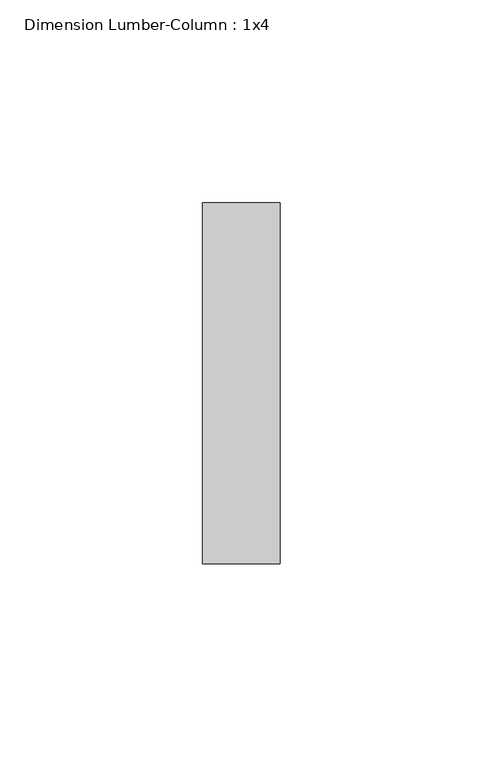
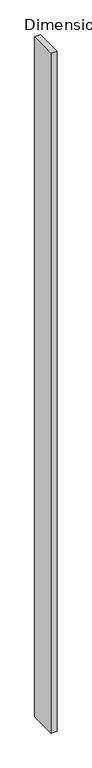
"""IFC4 building model written with IfcOpenShell, lengths in millimetres: column geometry, Dimension Lumber-Column : 1x4."""

from ifc_helpers import new_model, si_unit, frame, origin, place, context, project, spatial, polyline, outline, extrude, source, transform, mapped, element, save


def dimension_lumber_column_1x4_052bb746(model_context):
    return source(origin(), model_context, "Body", "SweptSolid", [
        extrude(outline(polyline([(9.525, -44.45), (-9.525, -44.45), (-9.525, 44.45), (9.525, 44.45), (9.525, -44.45)])), frame((0.0, 0.0, -101.6), z_axis=(0.0, 0.0, 1.0), x_axis=(1.0, 0.0, 0.0)), (0.0, 0.0, 1.0), 2266.95),
    ])


if __name__ == "__main__":
    model = new_model("IFC4")
    model_context = context("Model", 3, world=origin())
    ifc_project = project(units=[si_unit("LENGTHUNIT", "METRE", prefix="MILLI")], contexts=[model_context])
    site = spatial("IfcSite", under=ifc_project)
    building = spatial("IfcBuilding", under=site)
    placement = place(None, origin())
    dimension_lumber_column_1x4_shape = dimension_lumber_column_1x4_052bb746(model_context)
    element("IfcColumn", 1, ObjectType="Dimension Lumber-Column : 1x4", at=placement, inside=building, context=model_context, shape_type="MappedRepresentation", body=[
        mapped(dimension_lumber_column_1x4_shape, transform((0.0, 0.0, 0.0), x_axis=(1.0, 0.0, 0.0), y_axis=(0.0, 1.0, 0.0), z_axis=(0.0, 0.0, 1.0))),
    ])
    save(model, "model.ifc")
